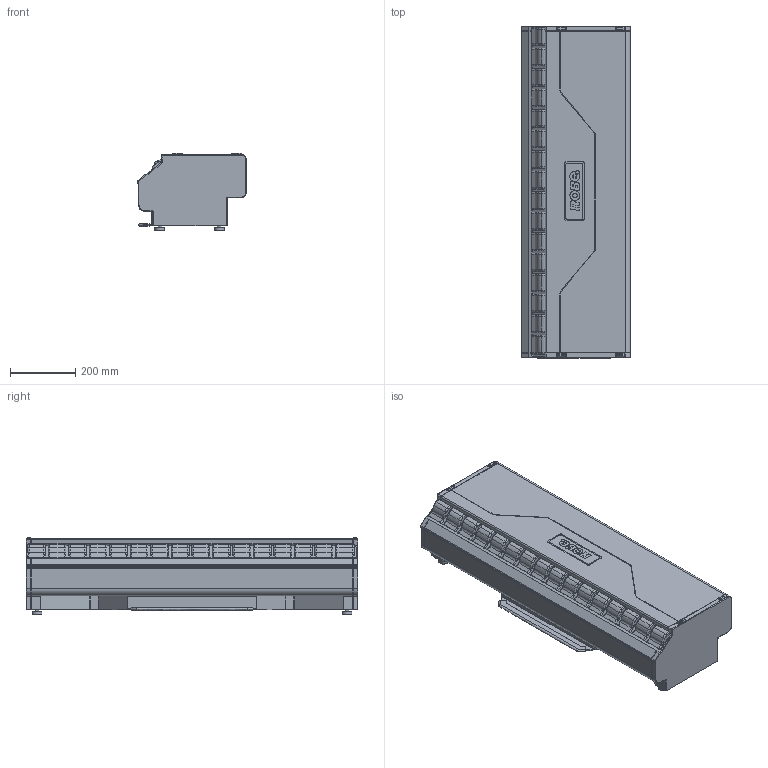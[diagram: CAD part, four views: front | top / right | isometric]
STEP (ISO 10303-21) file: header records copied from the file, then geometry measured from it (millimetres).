
FILE_DESCRIPTION(/* description */ ('Unknown'),/* implementation_level */ '2;1');
FILE_NAME(/* name */ 'T32 Cyc',/* time_stamp */ '2023-10-30T12:52:49+01:00',/* author */ ('Unknown'),/* organization */ ('Unknown'),/* preprocessor_version */ 'ST-DEVELOPER v18.104',/* originating_system */ 'Solid Edge',/* authorisation */ 'Unknown');
FILE_SCHEMA (('AUTOMOTIVE_DESIGN {1 0 10303 214 3 1 1}'));
Length unit declared in the file: millimetre
Products named in the file (1): T32 Cyc
Bounding box: 335.33 x 1018.6 x 238.36 mm (x, y, z)
Volume: 60989391.8 mm3; surface area: 1306125.7 mm2
Topology: 1 solids, 1 shells, 880 faces, 2393 edges, 1541 vertices
Faces by surface type: plane 352, bspline 267, cylinder 203, torus 54, sphere 4
Full cylindrical faces by diameter (mm): 10.524 x1, 30 x4
Entity records: 34903 total; most frequent: CARTESIAN_POINT 14958, ORIENTED_EDGE 4748, DIRECTION 3254, EDGE_CURVE 2374, VERTEX_POINT 1537, LINE 1138, VECTOR 1138, AXIS2_PLACEMENT_3D 1058
